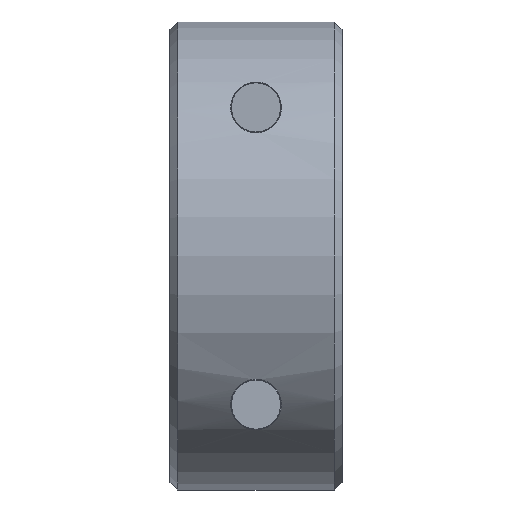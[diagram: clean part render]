
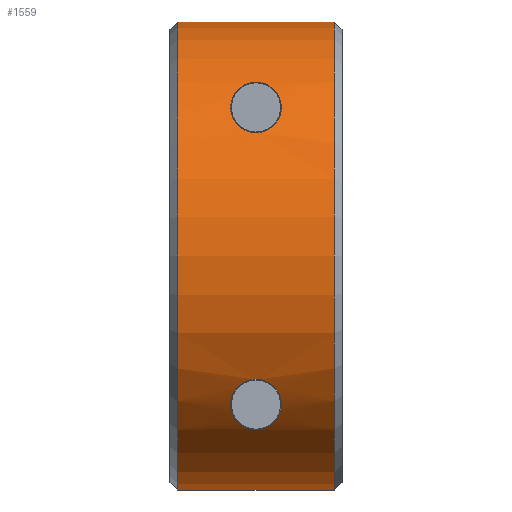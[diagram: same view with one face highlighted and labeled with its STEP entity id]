
A CAD part, front view. The second image highlights one B-rep face of the part: STEP entity #1559.
In plain terms, the highlighted cylindrical face has radius 15 mm (diameter 30 mm), a partial arc.
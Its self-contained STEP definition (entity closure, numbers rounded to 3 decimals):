
#80=LINE('',#2127,#154);
#81=LINE('',#2131,#155);
#154=VECTOR('',#1769,1000.);
#155=VECTOR('',#1772,1000.);
#228=B_SPLINE_CURVE_WITH_KNOTS('',3,(#2087,#2088,#2089,#2090,#2091,#2092,
#2093,#2094,#2095,#2096,#2097,#2098,#2099,#2100,#2101,#2102,#2103),
 .UNSPECIFIED.,.T.,.F.,(1,1,1,1,1,1,1,1,1,1,1,1,1,1,1,1,1,1,1,1,1),(-0.003,
-0.001,-0.001,0.,0.001,0.001,
0.003,0.004,0.004,0.005,
0.006,0.007,0.007,0.008,
0.009,0.01,0.011,0.012,
0.012,0.013,0.015),.UNSPECIFIED.);
#229=B_SPLINE_CURVE_WITH_KNOTS('',3,(#2106,#2107,#2108,#2109,#2110,#2111,
#2112,#2113,#2114,#2115,#2116,#2117,#2118,#2119,#2120,#2121,#2122),
 .UNSPECIFIED.,.T.,.F.,(1,1,1,1,1,1,1,1,1,1,1,1,1,1,1,1,1,1,1,1,1),(-0.003,
-0.001,-0.001,0.,0.001,0.001,
0.003,0.004,0.004,0.005,
0.006,0.007,0.007,0.008,
0.009,0.01,0.011,0.012,
0.012,0.013,0.015),.UNSPECIFIED.);
#250=ORIENTED_EDGE('',*,*,#542,.T.);
#251=ORIENTED_EDGE('',*,*,#543,.T.);
#252=ORIENTED_EDGE('',*,*,#544,.T.);
#253=ORIENTED_EDGE('',*,*,#545,.F.);
#254=ORIENTED_EDGE('',*,*,#546,.T.);
#255=ORIENTED_EDGE('',*,*,#541,.T.);
#541=EDGE_CURVE('',#687,#687,#228,.T.);
#542=EDGE_CURVE('',#688,#688,#229,.T.);
#543=EDGE_CURVE('',#689,#690,#789,.T.);
#544=EDGE_CURVE('',#690,#691,#80,.T.);
#545=EDGE_CURVE('',#692,#691,#790,.T.);
#546=EDGE_CURVE('',#692,#689,#81,.F.);
#687=VERTEX_POINT('',#2104);
#688=VERTEX_POINT('',#2123);
#689=VERTEX_POINT('',#2125);
#690=VERTEX_POINT('',#2126);
#691=VERTEX_POINT('',#2128);
#692=VERTEX_POINT('',#2130);
#789=CIRCLE('',#1638,15.);
#790=CIRCLE('',#1639,15.);
#842=EDGE_LOOP('',(#250));
#843=EDGE_LOOP('',(#251,#252,#253,#254));
#844=EDGE_LOOP('',(#255));
#940=FACE_BOUND('',#842,.T.);
#941=FACE_BOUND('',#843,.T.);
#942=FACE_BOUND('',#844,.T.);
#1039=CYLINDRICAL_SURFACE('',#1637,15.);
#1559=ADVANCED_FACE('',(#940,#941,#942),#1039,.T.);
#1637=AXIS2_PLACEMENT_3D('',#2105,#1765,#1766);
#1638=AXIS2_PLACEMENT_3D('',#2124,#1767,#1768);
#1639=AXIS2_PLACEMENT_3D('',#2129,#1770,#1771);
#1765=DIRECTION('',(1.,0.,0.));
#1766=DIRECTION('',(0.,0.,-1.));
#1767=DIRECTION('',(1.,0.,0.));
#1768=DIRECTION('',(0.,0.,-1.));
#1769=DIRECTION('',(1.,0.,0.));
#1770=DIRECTION('',(1.,0.,0.));
#1771=DIRECTION('',(0.,0.,-1.));
#1772=DIRECTION('',(1.,0.,0.));
#2087=CARTESIAN_POINT('',(-0.739,-12.692,-7.996));
#2088=CARTESIAN_POINT('',(0.001,-12.8,-7.821));
#2089=CARTESIAN_POINT('',(0.735,-12.693,-7.995));
#2090=CARTESIAN_POINT('',(1.463,-12.313,-8.584));
#2091=CARTESIAN_POINT('',(1.694,-11.713,-9.395));
#2092=CARTESIAN_POINT('',(1.529,-11.072,-10.128));
#2093=CARTESIAN_POINT('',(1.226,-10.607,-10.612));
#2094=CARTESIAN_POINT('',(0.728,-10.199,-11.002));
#2095=CARTESIAN_POINT('',(-0.001,-9.999,-11.181));
#2096=CARTESIAN_POINT('',(-0.732,-10.201,-11.));
#2097=CARTESIAN_POINT('',(-1.227,-10.608,-10.611));
#2098=CARTESIAN_POINT('',(-1.531,-11.076,-10.124));
#2099=CARTESIAN_POINT('',(-1.693,-11.716,-9.391));
#2100=CARTESIAN_POINT('',(-1.462,-12.313,-8.585));
#2101=CARTESIAN_POINT('',(-0.739,-12.692,-7.996));
#2102=CARTESIAN_POINT('',(0.001,-12.8,-7.821));
#2103=CARTESIAN_POINT('',(0.735,-12.693,-7.995));
#2104=CARTESIAN_POINT('',(0.,-12.764,-7.879));
#2105=CARTESIAN_POINT('',(5.5,0.,0.));
#2106=CARTESIAN_POINT('',(0.739,-12.692,7.996));
#2107=CARTESIAN_POINT('',(-0.001,-12.8,7.821));
#2108=CARTESIAN_POINT('',(-0.735,-12.693,7.995));
#2109=CARTESIAN_POINT('',(-1.463,-12.313,8.584));
#2110=CARTESIAN_POINT('',(-1.694,-11.713,9.395));
#2111=CARTESIAN_POINT('',(-1.529,-11.072,10.128));
#2112=CARTESIAN_POINT('',(-1.226,-10.607,10.612));
#2113=CARTESIAN_POINT('',(-0.728,-10.199,11.002));
#2114=CARTESIAN_POINT('',(0.001,-9.999,11.181));
#2115=CARTESIAN_POINT('',(0.732,-10.201,11.));
#2116=CARTESIAN_POINT('',(1.227,-10.608,10.611));
#2117=CARTESIAN_POINT('',(1.531,-11.076,10.124));
#2118=CARTESIAN_POINT('',(1.693,-11.716,9.391));
#2119=CARTESIAN_POINT('',(1.462,-12.313,8.585));
#2120=CARTESIAN_POINT('',(0.739,-12.692,7.996));
#2121=CARTESIAN_POINT('',(-0.001,-12.8,7.821));
#2122=CARTESIAN_POINT('',(-0.735,-12.693,7.995));
#2123=CARTESIAN_POINT('',(0.,-12.764,7.879));
#2124=CARTESIAN_POINT('',(-5.,0.,0.));
#2125=CARTESIAN_POINT('',(-5.,-1.05,14.963));
#2126=CARTESIAN_POINT('',(-5.,-1.05,-14.963));
#2127=CARTESIAN_POINT('',(5.5,-1.05,-14.963));
#2128=CARTESIAN_POINT('',(5.,-1.05,-14.963));
#2129=CARTESIAN_POINT('',(5.,0.,0.));
#2130=CARTESIAN_POINT('',(5.,-1.05,14.963));
#2131=CARTESIAN_POINT('',(5.5,-1.05,14.963));
